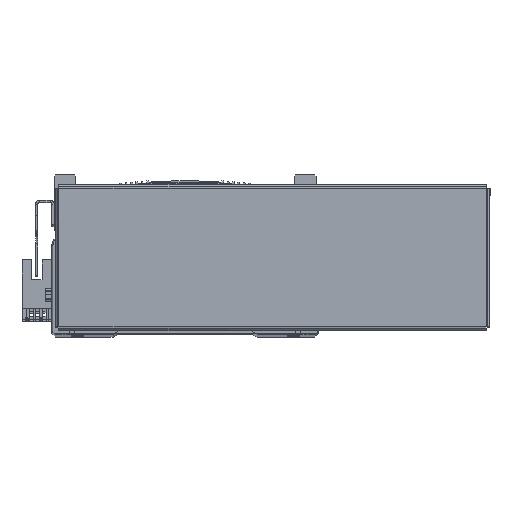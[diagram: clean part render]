
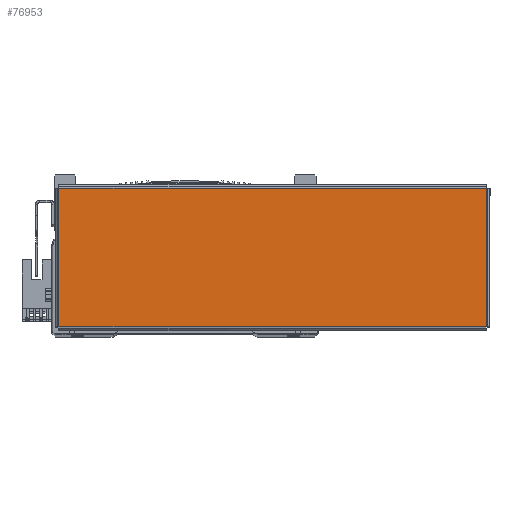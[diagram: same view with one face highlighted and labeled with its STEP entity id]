
A CAD part, top view. The second image highlights one B-rep face of the part: STEP entity #76953.
In plain terms, the highlighted planar face has unit normal (0, 0, 1) as drawn and (0, 0, -1) by its records, which use the part's own axes.
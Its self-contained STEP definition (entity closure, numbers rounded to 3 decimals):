
#12337 = EDGE_CURVE ( 'NONE', #70334, #70250, #25660, .T. ) ;
#12351 = EDGE_CURVE ( 'NONE', #70250, #70270, #25717, .T. ) ;
#12359 = EDGE_CURVE ( 'NONE', #70360, #70334, #25751, .T. ) ;
#12362 = EDGE_CURVE ( 'NONE', #70270, #70360, #25748, .T. ) ;
#19614 = DIRECTION ( 'NONE',  ( 0., -1., 0. ) ) ;
#19635 = CARTESIAN_POINT ( 'NONE',  ( 97.863, 31.793, -1. ) ) ;
#19678 = CARTESIAN_POINT ( 'NONE',  ( 0., 0., -1. ) ) ;
#19679 = DIRECTION ( 'NONE',  ( 0., 0., 1. ) ) ;
#19699 = PLANE ( 'NONE',  #75636 ) ;
#19710 = DIRECTION ( 'NONE',  ( 1., 0., 0. ) ) ;
#25660 = LINE ( 'NONE', #19635, #25666 ) ;
#25666 = VECTOR ( 'NONE', #19614, 1000. ) ;
#25717 = LINE ( 'NONE', #62813, #25723 ) ;
#25723 = VECTOR ( 'NONE', #62821, 1000. ) ;
#25734 = VECTOR ( 'NONE', #62900, 1000. ) ;
#25744 = VECTOR ( 'NONE', #62875, 1000. ) ;
#25748 = LINE ( 'NONE', #62893, #25734 ) ;
#25751 = LINE ( 'NONE', #62890, #25744 ) ;
#39512 = CARTESIAN_POINT ( 'NONE',  ( 97.863, -31.763, -1. ) ) ;
#39550 = CARTESIAN_POINT ( 'NONE',  ( -97.863, -31.763, -1. ) ) ;
#39738 = CARTESIAN_POINT ( 'NONE',  ( 97.863, 31.763, -1. ) ) ;
#39771 = CARTESIAN_POINT ( 'NONE',  ( -97.863, 31.763, -1. ) ) ;
#54380 = FACE_OUTER_BOUND ( 'NONE', #67659, .T. ) ;
#55571 = ORIENTED_EDGE ( 'NONE', *, *, #12351, .T. ) ;
#55591 = ORIENTED_EDGE ( 'NONE', *, *, #12362, .T. ) ;
#55592 = ORIENTED_EDGE ( 'NONE', *, *, #12359, .T. ) ;
#60874 = ORIENTED_EDGE ( 'NONE', *, *, #12337, .T. ) ;
#62813 = CARTESIAN_POINT ( 'NONE',  ( 97.893, -31.763, -1. ) ) ;
#62821 = DIRECTION ( 'NONE',  ( -1., 0., 0. ) ) ;
#62875 = DIRECTION ( 'NONE',  ( 1., 0., 0. ) ) ;
#62890 = CARTESIAN_POINT ( 'NONE',  ( -97.893, 31.763, -1. ) ) ;
#62893 = CARTESIAN_POINT ( 'NONE',  ( -97.863, -31.793, -1. ) ) ;
#62900 = DIRECTION ( 'NONE',  ( 0., 1., 0. ) ) ;
#67659 = EDGE_LOOP ( 'NONE', ( #60874, #55571, #55591, #55592 ) ) ;
#70250 = VERTEX_POINT ( 'NONE', #39512 ) ;
#70270 = VERTEX_POINT ( 'NONE', #39550 ) ;
#70334 = VERTEX_POINT ( 'NONE', #39738 ) ;
#70360 = VERTEX_POINT ( 'NONE', #39771 ) ;
#75636 = AXIS2_PLACEMENT_3D ( 'NONE', #19678, #19679, #19710 ) ;
#76953 = ADVANCED_FACE ( 'NONE', ( #54380 ), #19699, .F. ) ;
